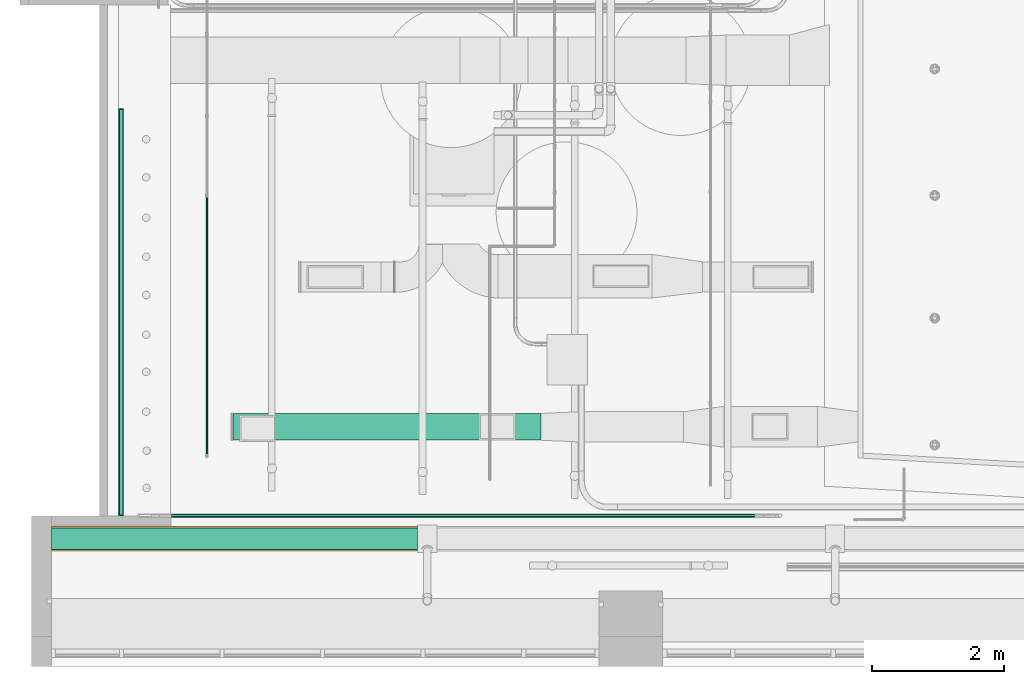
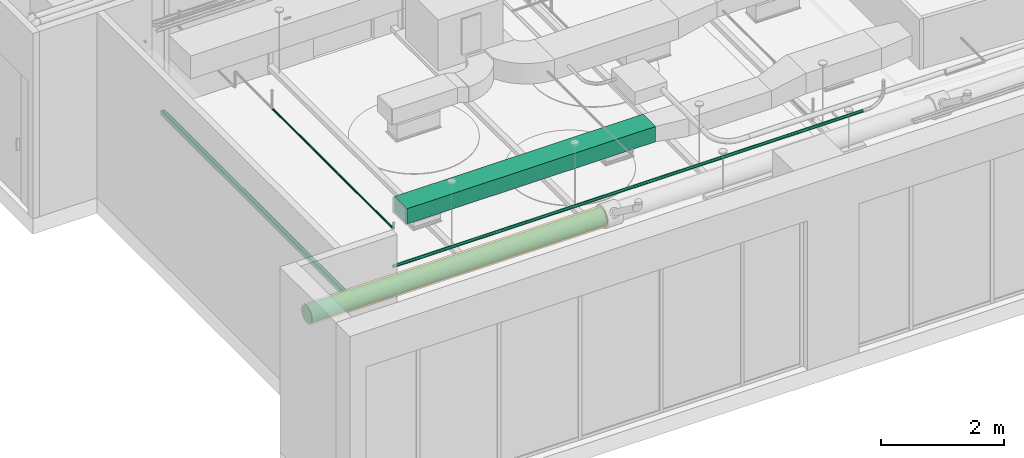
# One storey, part 23 of 108: 2 pipe segments, 1 cable carrier segment, 1 covering, 1 duct segment, 1 light fixture.
"""IFC4 building model written with IfcOpenShell, lengths in feet."""

from ifc_helpers import new_model, entity, si_unit, converted_unit, derived_unit, direction, frame, frame_2d, origin, origin_2d_with_axis, place, context, subcontext, project, spatial, polyline, rectangle, circle, outline, extrude, source, transform, mapped, material, constituent, constituent_set, type_object, type_shapes, element, aggregate, save


model = new_model("IFC4")

# Units and contexts
model_context = context("Model", 3, precision=0.0001, world=origin(), true_north=direction((6.12303176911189e-17, 1.0)))
body_context = subcontext(model_context, "Body", "Model", "MODEL_VIEW")
ifc_project = project(units=[converted_unit("LENGTHUNIT", "FOOT", entity("IfcRatioMeasure", 0.3048), si_unit("LENGTHUNIT", "METRE"), dimensions=[1, 0, 0, 0, 0, 0, 0]), converted_unit("AREAUNIT", "SQUARE FOOT", entity("IfcRatioMeasure", 0.09290304), si_unit("AREAUNIT", "SQUARE_METRE"), dimensions=[2, 0, 0, 0, 0, 0, 0]), converted_unit("VOLUMEUNIT", "CUBIC FOOT", entity("IfcRatioMeasure", 0.028316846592), si_unit("VOLUMEUNIT", "CUBIC_METRE"), dimensions=[3, 0, 0, 0, 0, 0, 0]), converted_unit("PLANEANGLEUNIT", "DEGREE", entity("IfcRatioMeasure", 0.0174532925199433), si_unit("PLANEANGLEUNIT", "RADIAN"), dimensions=[0, 0, 0, 0, 0, 0, 0]), si_unit("MASSUNIT", "GRAM", prefix="KILO"), derived_unit("MASSDENSITYUNIT", [(si_unit("MASSUNIT", "GRAM", prefix="KILO"), 1), (si_unit("LENGTHUNIT", "METRE"), -3)]), si_unit("TIMEUNIT", "SECOND"), si_unit("FREQUENCYUNIT", "HERTZ"), si_unit("THERMODYNAMICTEMPERATUREUNIT", "DEGREE_CELSIUS"), derived_unit("THERMALTRANSMITTANCEUNIT", [(si_unit("MASSUNIT", "GRAM", prefix="KILO"), 1), (si_unit("THERMODYNAMICTEMPERATUREUNIT", "KELVIN"), -1), (si_unit("TIMEUNIT", "SECOND"), -3)]), derived_unit("VOLUMETRICFLOWRATEUNIT", [(si_unit("LENGTHUNIT", "METRE"), 3), (si_unit("TIMEUNIT", "SECOND"), -1)]), si_unit("ELECTRICCURRENTUNIT", "AMPERE"), si_unit("ELECTRICVOLTAGEUNIT", "VOLT"), si_unit("POWERUNIT", "WATT"), si_unit("FORCEUNIT", "NEWTON"), si_unit("ILLUMINANCEUNIT", "LUX"), si_unit("LUMINOUSFLUXUNIT", "LUMEN"), si_unit("LUMINOUSINTENSITYUNIT", "CANDELA"), derived_unit("USERDEFINED", [(si_unit("MASSUNIT", "GRAM", prefix="KILO"), -1), (si_unit("LENGTHUNIT", "METRE"), -2), (si_unit("TIMEUNIT", "SECOND"), 3), (si_unit("LUMINOUSFLUXUNIT", "LUMEN"), 1)]), derived_unit("LINEARVELOCITYUNIT", [(si_unit("LENGTHUNIT", "METRE"), 1), (si_unit("TIMEUNIT", "SECOND"), -1)]), si_unit("PRESSUREUNIT", "PASCAL"), derived_unit("USERDEFINED", [(si_unit("LENGTHUNIT", "METRE"), -2), (si_unit("MASSUNIT", "GRAM", prefix="KILO"), 1), (si_unit("TIMEUNIT", "SECOND"), -2)])], contexts=[model_context])

# Covering
site_placement = place(None, origin())
building_placement = place(site_placement, origin())
storey_placement = place(building_placement, frame((0.0, 0.0, 168.0)))
covering_placement = place(storey_placement, frame((-58.5256156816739, -17.3700330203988, 8.71351616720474)))
covering = element("IfcCovering", 1, at=covering_placement, Name="Pipe Insulation:Default", ObjectType="Pipe Insulation:Default", PredefinedType="INSULATION", context=body_context, shape_type="SweptSolid", body=[
    extrude(circle(Radius=0.614583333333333, at=frame_2d((3.5527136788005e-15, -2.8421709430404e-14), x_axis=(1.0, 0.0))), frame((0.0, 0.619817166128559, 0.619817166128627), z_axis=(1.0, 0.0, 0.0), x_axis=(0.0, 1.0, 0.0)), (0.0, 0.0, 1.0), 18.2032640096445),
])

# Site, building, storey
site = spatial("IfcSite", under=ifc_project, at=site_placement, Name="Default", CompositionType="ELEMENT")
building = spatial("IfcBuilding", under=site, at=building_placement, CompositionType="ELEMENT")
storey = spatial("IfcBuildingStorey", under=building, at=storey_placement, Name="Level 15", CompositionType="ELEMENT", Elevation=168.0)

# Light fixture
ifc_material_1 = material(Name="Glass, White, High Luminance", Category="Glass")
ifc_constituent_1 = constituent(ifc_material_1, Name="Glass, White, High Luminance", Category="Materials")
ifc_material_2 = material(Name="Steel, Paint Finish, Ivory, Glossy", Category="Metal")
ifc_constituent_2 = constituent(ifc_material_2, Name="Steel, Paint Finish, Ivory, Glossy", Category="Materials")
ifc_constituent_set_1 = constituent_set(constituents=[ifc_constituent_1, ifc_constituent_2], Name="MaterialConstituentSet")
ifc_constituent_3 = constituent(ifc_material_1, Name="Glass, White, High Luminance", Category="Materials")
ifc_constituent_4 = constituent(ifc_material_2, Name="Steel, Paint Finish, Ivory, Glossy", Category="Materials")
ifc_constituent_set_2 = constituent_set(constituents=[ifc_constituent_3, ifc_constituent_4], Name="MaterialConstituentSet")
light_fixture_type = type_object("IfcLightFixtureType", Name="20' 3\"", PredefinedType="NOTDEFINED", material=ifc_constituent_set_2)
shared_shape = source(origin(), body_context, "Body", "SweptSolid", [
    extrude(rectangle(XDim=20.1666666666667, YDim=0.166666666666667, at=origin_2d_with_axis()), frame((10.125, 0.124999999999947, 0.0), z_axis=(0.0, 0.0, 1.0), x_axis=(-1.0, 0.0, 0.0)), (0.0, 0.0, 1.0), 0.0208333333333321),
    extrude(outline(polyline([(-10.125, -0.125000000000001), (10.125, -0.125000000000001), (10.125, 0.125000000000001), (-10.125, 0.125000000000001), (-10.125, -0.125000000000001)]), holes=[polyline([(-10.0833333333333, -0.0833333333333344), (-10.0833333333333, 0.0833333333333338), (10.0833333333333, 0.0833333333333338), (10.0833333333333, -0.0833333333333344), (-10.0833333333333, -0.0833333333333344)])]), frame((10.125, 0.125000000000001, 0.0), z_axis=(0.0, 0.0, 1.0), x_axis=(-1.0, 0.0, 0.0)), (0.0, 0.0, 1.0), 0.291666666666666),
])
type_shapes(light_fixture_type, [shared_shape])
light_fixture_placement = place(storey_placement, frame((-54.9336644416, -15.6061494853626, 8.1875), z_axis=(0.0, 0.0, 1.0), x_axis=(0.0, 1.0, 0.0)))
element("IfcLightFixture", 2, at=light_fixture_placement, inside=storey, type_object=light_fixture_type, material=ifc_constituent_set_1, Name="Ceiling Light - Linear Box:20' 3\"", ObjectType="Ceiling Light - Linear Box:20' 3\"", PredefinedType="NOTDEFINED", context=body_context, shape_type="MappedRepresentation", body=[
    mapped(shared_shape, transform((0.0, 0.0, 0.0), scale=1.0)),
])

# Duct segment
duct_segment_type = type_object("IfcDuctSegmentType", Name="Rectangular Duct:Square Throat Elbows / S&D", PredefinedType="NOTDEFINED")
duct_segment_placement = place(storey_placement, frame((-49.5083537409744, -11.8487742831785, 9.083333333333)))
element("IfcDuctSegment", 3, at=duct_segment_placement, inside=storey, type_object=duct_segment_type, Name="Rectangular Duct:Square Throat Elbows / S&D", ObjectType="Rectangular Duct:Square Throat Elbows / S&D", PredefinedType="NOTDEFINED", context=body_context, shape_type="SweptSolid", body=[
    extrude(rectangle(XDim=15.3333333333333, YDim=1.33333333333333, at=origin_2d_with_axis()), frame((7.66666666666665, 0.666666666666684, 0.0)), (0.0, 0.0, 1.0), 1.0),
])

# Pipe segment
pipe_segment_type_1 = type_object("IfcPipeSegmentType", Name="Pipe Types:Fire Prot Sched 10 Main", PredefinedType="NOTDEFINED")
pipe_segment_1_placement = place(storey_placement, frame((-50.8574057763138, -12.5446913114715, 9.64830783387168)))
element("IfcPipeSegment", 4, at=pipe_segment_1_placement, inside=storey, type_object=pipe_segment_type_1, Name="Pipe Types:Fire Prot Sched 10 Main", ObjectType="Pipe Types:Fire Prot Sched 10 Main", PredefinedType="NOTDEFINED", context=body_context, shape_type="SweptSolid", body=[
    extrude(circle(Radius=0.0547916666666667, at=frame_2d((-2.1316282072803e-14, 0.0), x_axis=(1.0, 0.0))), frame((0.0600254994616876, 0.0, 0.0600254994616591), z_axis=(0.0, 1.0, 0.0), x_axis=(-1.0, 0.0, 0.0)), (0.0, 0.0, 1.0), 12.7706240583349),
])

# Cable carrier segment
cable_carrier_segment_type = type_object("IfcCableCarrierSegmentType", Name="Conduit with Fittings:Conduit", PredefinedType="NOTDEFINED")
cable_carrier_segment_placement = place(storey_placement, frame((-52.5458110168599, -15.695495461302, 9.56989116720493)))
element("IfcCableCarrierSegment", 5, at=cable_carrier_segment_placement, inside=storey, type_object=cable_carrier_segment_type, Name="Conduit with Fittings:Conduit", ObjectType="Conduit with Fittings:Conduit", PredefinedType="NOTDEFINED", context=body_context, shape_type="SweptSolid", body=[
    extrude(circle(Radius=0.0915416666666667, at=frame_2d((-4.9737991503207e-14, 2.8421709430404e-14), x_axis=(1.0, 0.0))), frame((0.0, 0.0967754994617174, 0.0967754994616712), z_axis=(1.0, 0.0, 0.0), x_axis=(0.0, 1.0, 0.0)), (0.0, 0.0, 1.0), 28.9658708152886),
])

# Pipe segment
pipe_segment_type_2 = type_object("IfcPipeSegmentType", Name="Pipe Types:Hydronic", PredefinedType="NOTDEFINED")
pipe_segment_2_placement = place(storey_placement, frame((-58.5256156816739, -17.2866996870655, 8.79684950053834)))
pipe_segment_2 = element("IfcPipeSegment", 6, at=pipe_segment_2_placement, inside=storey, type_object=pipe_segment_type_2, Name="Pipe Types:Hydronic", ObjectType="Pipe Types:Hydronic", PredefinedType="NOTDEFINED", context=body_context, shape_type="SweptSolid", body=[
    extrude(circle(Radius=0.53125, at=origin_2d_with_axis()), frame((0.0, 0.536483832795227, 0.536483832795), z_axis=(1.0, 0.0, 0.0), x_axis=(0.0, -1.0, 0.0)), (0.0, 0.0, 1.0), 18.2032640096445),
])

aggregate(pipe_segment_2, [covering])

save(model, "model.ifc")
